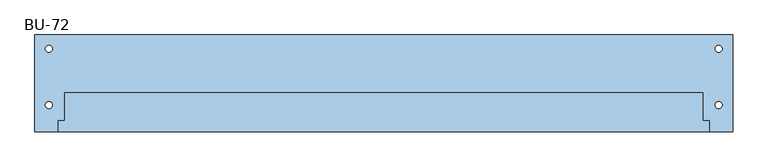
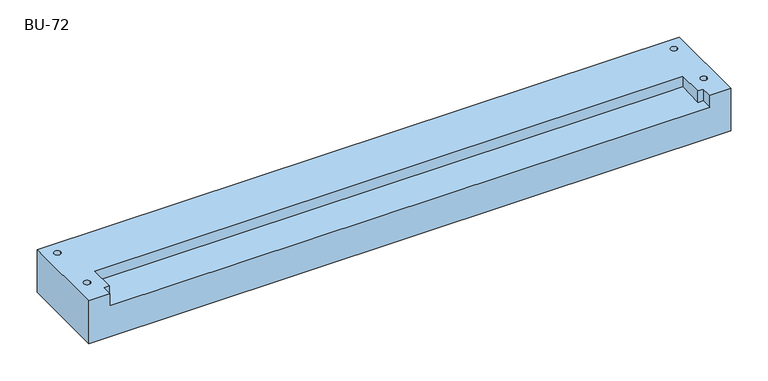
"""IFC4 building model written with IfcOpenShell, lengths in millimetres: window geometry, 30_NS_BU_67-72 : BU-72."""

from ifc_helpers import new_model, si_unit, frame, origin, place, context, project, spatial, polyline, circle_curve, source, transform, mapped, element, save
from ifc_brep_helpers import plane_surface, revolved_surface, advanced_brep


def bu_72_92419f8d(model_context):
    return source(origin(), model_context, "Body", "AdvancedBrep", [
        advanced_brep(
        [(0.0, -139.0, 0.0), (0.0, 0.0, 0.0), (933.0, 0.0, 0.0), (1000.0, 0.0, 0.0), (1000.0, -139.0, 0.0), (15.0, -100.4521719, 0.0), (25.0, -100.4521719, 0.0), (15.0, -20.0, 0.0), (25.0, -20.0, 0.0), (975.0, -20.0, 0.0), (985.0, -20.0, 0.0), (975.0, -100.4521719, 0.0), (985.0, -100.4521719, 0.0), (0.0, -139.0, 70.0), (33.0, -139.0, 70.0), (33.0, -122.0, 70.0), (42.0, -122.0, 70.0), (42.0, -82.0, 70.0), (958.0, -82.0, 70.0), (958.0, -122.0, 70.0), (967.0, -122.0, 70.0), (967.0, -139.0, 70.0), (1000.0, -139.0, 70.0), (1000.0, 0.0, 70.0), (0.0, 0.0, 70.0), (25.0, -100.4521719, 70.0), (15.0, -100.4521719, 70.0), (25.0, -20.0, 70.0), (15.0, -20.0, 70.0), (985.0, -20.0, 70.0), (975.0, -20.0, 70.0), (985.0, -100.4521719, 70.0), (975.0, -100.4521719, 70.0), (42.0, -82.0, 52.6427741), (42.0, -122.0, 50.9631857), (33.0, -122.0, 50.9631857), (33.0, -139.0, 50.2493606), (967.0, -139.0, 50.2493606), (967.0, -122.0, 50.9631857), (958.0, -122.0, 50.9631857), (958.0, -82.0, 52.6427741), (933.0, -82.0, 52.6427741)],
        [
            (0, 1),
            (1, 2),
            (2, 3),
            (3, 4),
            (4, 0),
            (5, 6, circle_curve(frame((20.0, -100.4521719, 0.0), z_axis=(0.0, 0.0, 1.0), x_axis=(1.0, 0.0, 0.0)), 5.0)),
            (6, 5, circle_curve(frame((20.0, -100.4521719, 0.0), z_axis=(0.0, 0.0, 1.0), x_axis=(1.0, 0.0, 0.0)), 5.0)),
            (7, 8, circle_curve(frame((20.0, -20.0, 0.0), z_axis=(0.0, 0.0, 1.0), x_axis=(1.0, 0.0, 0.0)), 5.0)),
            (8, 7, circle_curve(frame((20.0, -20.0, 0.0), z_axis=(0.0, 0.0, 1.0), x_axis=(1.0, 0.0, 0.0)), 5.0)),
            (9, 10, circle_curve(frame((980.0, -20.0, 0.0), z_axis=(0.0, 0.0, 1.0), x_axis=(1.0, 0.0, 0.0)), 5.0)),
            (10, 9, circle_curve(frame((980.0, -20.0, 0.0), z_axis=(0.0, 0.0, 1.0), x_axis=(1.0, 0.0, 0.0)), 5.0)),
            (11, 12, circle_curve(frame((980.0, -100.4521719, 0.0), z_axis=(0.0, 0.0, 1.0), x_axis=(1.0, 0.0, 0.0)), 5.0)),
            (12, 11, circle_curve(frame((980.0, -100.4521719, 0.0), z_axis=(0.0, 0.0, 1.0), x_axis=(1.0, 0.0, 0.0)), 5.0)),
            (13, 14),
            (14, 15),
            (15, 16),
            (16, 17),
            (17, 18),
            (18, 19),
            (19, 20),
            (20, 21),
            (21, 22),
            (22, 23),
            (23, 24),
            (24, 13),
            (25, 26, circle_curve(frame((20.0, -100.4521719, 70.0), z_axis=(0.0, 0.0, -1.0), x_axis=(1.0, 0.0, 0.0)), 5.0)),
            (26, 25, circle_curve(frame((20.0, -100.4521719, 70.0), z_axis=(0.0, 0.0, -1.0), x_axis=(1.0, 0.0, 0.0)), 5.0)),
            (27, 28, circle_curve(frame((20.0, -20.0, 70.0), z_axis=(0.0, 0.0, -1.0), x_axis=(1.0, 0.0, 0.0)), 5.0)),
            (28, 27, circle_curve(frame((20.0, -20.0, 70.0), z_axis=(0.0, 0.0, -1.0), x_axis=(1.0, 0.0, 0.0)), 5.0)),
            (29, 30, circle_curve(frame((980.0, -20.0, 70.0), z_axis=(0.0, 0.0, -1.0), x_axis=(1.0, 0.0, 0.0)), 5.0)),
            (30, 29, circle_curve(frame((980.0, -20.0, 70.0), z_axis=(0.0, 0.0, -1.0), x_axis=(1.0, 0.0, 0.0)), 5.0)),
            (31, 32, circle_curve(frame((980.0, -100.4521719, 70.0), z_axis=(0.0, 0.0, -1.0), x_axis=(1.0, 0.0, 0.0)), 5.0)),
            (32, 31, circle_curve(frame((980.0, -100.4521719, 70.0), z_axis=(0.0, 0.0, -1.0), x_axis=(1.0, 0.0, 0.0)), 5.0)),
            (3, 23),
            (22, 4),
            (33, 34),
            (34, 35),
            (35, 36),
            (36, 37),
            (37, 38),
            (38, 39),
            (39, 40),
            (40, 41),
            (41, 33),
            (5, 26),
            (25, 6),
            (7, 28),
            (27, 8),
            (9, 30),
            (29, 10),
            (11, 32),
            (31, 12),
            (17, 33),
            (40, 18),
            (16, 34),
            (15, 35),
            (14, 36),
            (13, 0),
            (21, 37),
            (24, 1),
            (20, 38),
            (19, 39),
        ],
        [
            plane_surface(frame((0.0, 0.0, 0.0), z_axis=(0.0, 0.0, -1.0), x_axis=(1.0, 0.0, 0.0))),
            plane_surface(frame((0.0, 0.0, 70.0), z_axis=(0.0, 0.0, 1.0), x_axis=(1.0, 0.0, 0.0))),
            plane_surface(frame((1000.0, 0.0, 0.0), z_axis=(1.0, 0.0, 0.0), x_axis=(0.0, 0.0, 1.0))),
            plane_surface(frame((0.0, -139.0, 50.2493606), z_axis=(0.0, -0.04195274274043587, 0.9991195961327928), x_axis=(1.0, 0.0, 0.0))),
            revolved_surface(polyline([(25.0, -100.4521719, 0.0), (25.0, -100.4521719, 70.0)]), (20.0, -100.4521719, 0.0), (0.0, 0.0, -1.0)),
            revolved_surface(polyline([(25.0, -20.0, 0.0), (25.0, -20.0, 70.0)]), (20.0, -20.0, 0.0), (0.0, 0.0, -1.0)),
            revolved_surface(polyline([(985.0, -20.0, 0.0), (985.0, -20.0, 70.0)]), (980.0, -20.0, 0.0), (0.0, 0.0, -1.0)),
            revolved_surface(polyline([(985.0, -100.4521719, 0.0), (985.0, -100.4521719, 70.0)]), (980.0, -100.4521719, 0.0), (0.0, 0.0, -1.0)),
            plane_surface(frame((67.0, -82.0, 0.0), z_axis=(0.0, -1.0, 0.0), x_axis=(0.0, 0.0, 1.0))),
            plane_surface(frame((42.0, -82.0, 0.0), z_axis=(1.0, 0.0, 0.0), x_axis=(0.0, 0.0, 1.0))),
            plane_surface(frame((42.0, -122.0, 0.0), z_axis=(0.0, -1.0, 0.0), x_axis=(0.0, 0.0, 1.0))),
            plane_surface(frame((33.0, -122.0, 0.0), z_axis=(1.0, 0.0, 0.0), x_axis=(0.0, 0.0, 1.0))),
            plane_surface(frame((33.0, -139.0, 0.0), z_axis=(0.0, -1.0, 0.0), x_axis=(0.0, 0.0, 1.0))),
            plane_surface(frame((0.0, -139.0, 0.0), z_axis=(-1.0, 0.0, 0.0), x_axis=(0.0, 0.0, 1.0))),
            plane_surface(frame((0.0, 0.0, 0.0), z_axis=(0.0, 1.0, 0.0), x_axis=(0.0, 0.0, 1.0))),
            plane_surface(frame((967.0, -139.0, 0.0), z_axis=(-1.0, 0.0, 0.0), x_axis=(0.0, 0.0, 1.0))),
            plane_surface(frame((967.0, -122.0, 0.0), z_axis=(0.0, -1.0, 0.0), x_axis=(0.0, 0.0, 1.0))),
            plane_surface(frame((958.0, -122.0, 0.0), z_axis=(-1.0, 0.0, 0.0), x_axis=(0.0, 0.0, 1.0))),
        ],
        [
            (0, [[1, 2, 3, 4, 5], [6, 7], [8, 9], [10, 11], [12, 13]]),
            (1, [[14, 15, 16, 17, 18, 19, 20, 21, 22, 23, 24, 25], [26, 27], [28, 29], [30, 31], [32, 33]]),
            (2, [[-4, 34, -23, 35]]),
            (3, [[36, 37, 38, 39, 40, 41, 42, 43, 44]]),
            (4, [[45, -26, 46, -6]]),
            (4, [[-45, -7, -46, -27]]),
            (5, [[47, -28, 48, -8]]),
            (5, [[-47, -9, -48, -29]]),
            (6, [[49, -30, 50, -10]]),
            (6, [[-49, -11, -50, -31]]),
            (7, [[51, -32, 52, -12]]),
            (7, [[-51, -13, -52, -33]]),
            (8, [[53, -44, -43, 54, -18]]),
            (9, [[-17, 55, -36, -53]]),
            (10, [[-16, 56, -37, -55]]),
            (11, [[-15, 57, -38, -56]]),
            (12, [[-14, 58, -5, -35, -22, 59, -39, -57]]),
            (13, [[-1, -58, -25, 60]]),
            (14, [[-60, -24, -34, -3, -2]]),
            (15, [[-21, 61, -40, -59]]),
            (16, [[-20, 62, -41, -61]]),
            (17, [[-19, -54, -42, -62]]),
        ],
    ),
    ])


if __name__ == "__main__":
    model = new_model("IFC4")
    model_context = context("Model", 3, world=origin())
    ifc_project = project(units=[si_unit("LENGTHUNIT", "METRE", prefix="MILLI")], contexts=[model_context])
    site = spatial("IfcSite", under=ifc_project)
    building = spatial("IfcBuilding", under=site)
    placement = place(None, origin())
    bu_72_shape = bu_72_92419f8d(model_context)
    element("IfcWindow", 1, ObjectType="30_NS_BU_67-72 : BU-72", at=placement, inside=building, context=model_context, shape_type="MappedRepresentation", body=[
        mapped(bu_72_shape, transform((0.0, 0.0, 0.0), x_axis=(1.0, 0.0, 0.0), y_axis=(0.0, 1.0, 0.0), z_axis=(0.0, 0.0, 1.0))),
    ])
    save(model, "model.ifc")
